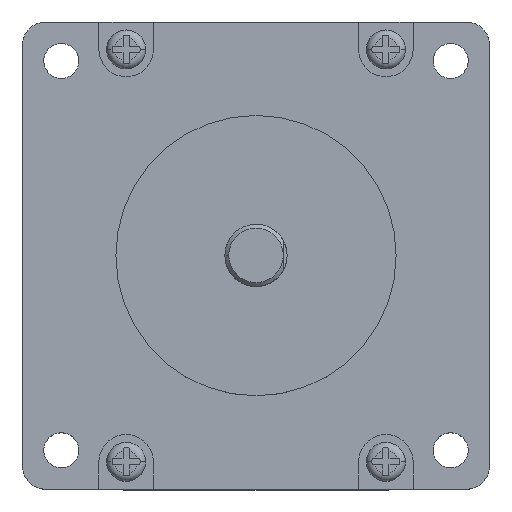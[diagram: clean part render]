
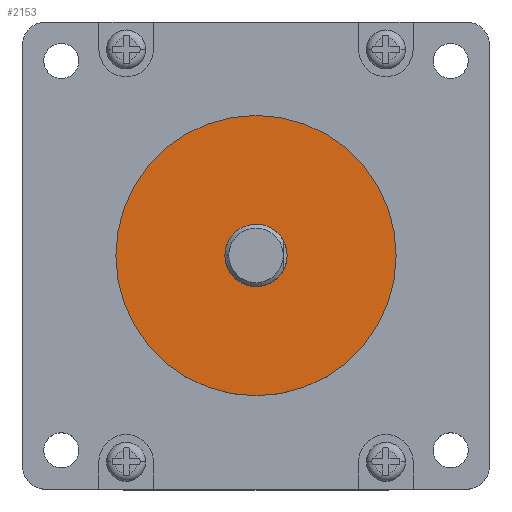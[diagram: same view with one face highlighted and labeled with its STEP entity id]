
A CAD part, top view. The second image highlights one B-rep face of the part: STEP entity #2153.
In plain terms, the highlighted planar face has unit normal (0, 0, 1).
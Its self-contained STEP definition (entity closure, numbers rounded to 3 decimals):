
#291 = CARTESIAN_POINT ( 'NONE',  ( 18., 0., 4.1 ) ) ;
#643 = CARTESIAN_POINT ( 'NONE',  ( 4., 0., 4.1 ) ) ;
#686 = CARTESIAN_POINT ( 'NONE',  ( -18., 0., 4.1 ) ) ;
#765 = CARTESIAN_POINT ( 'NONE',  ( -4., 0., 4.1 ) ) ;
#1043 = ORIENTED_EDGE ( 'NONE', *, *, #6015, .F. ) ;
#1044 = ORIENTED_EDGE ( 'NONE', *, *, #6553, .F. ) ;
#1045 = ORIENTED_EDGE ( 'NONE', *, *, #6002, .T. ) ;
#1046 = ORIENTED_EDGE ( 'NONE', *, *, #6554, .T. ) ;
#1372 = FACE_BOUND ( 'NONE', #4486, .T. ) ;
#1373 = FACE_OUTER_BOUND ( 'NONE', #4496, .T. ) ;
#1651 = VERTEX_POINT ( 'NONE', #765 ) ;
#1708 = VERTEX_POINT ( 'NONE', #686 ) ;
#1740 = VERTEX_POINT ( 'NONE', #643 ) ;
#1844 = VERTEX_POINT ( 'NONE', #291 ) ;
#2153 = ADVANCED_FACE ( 'NONE', ( #1373, #1372 ), #3555, .T. ) ;
#3542 = CARTESIAN_POINT ( 'NONE',  ( 0., 0., 4.1 ) ) ;
#3555 = PLANE ( 'NONE',  #6820 ) ;
#3556 = DIRECTION ( 'NONE',  ( 0., 0., 1. ) ) ;
#3557 = DIRECTION ( 'NONE',  ( 1., 0., 0. ) ) ;
#3886 = CARTESIAN_POINT ( 'NONE',  ( 0., 0., 4.1 ) ) ;
#3896 = DIRECTION ( 'NONE',  ( 0., 0., 1. ) ) ;
#3897 = DIRECTION ( 'NONE',  ( 1., 0., 0. ) ) ;
#3926 = CARTESIAN_POINT ( 'NONE',  ( 0., 0., 4.1 ) ) ;
#3934 = DIRECTION ( 'NONE',  ( 0., 0., 1. ) ) ;
#3935 = DIRECTION ( 'NONE',  ( 1., 0., 0. ) ) ;
#4408 = CARTESIAN_POINT ( 'NONE',  ( 0., 0., 4.1 ) ) ;
#4413 = CARTESIAN_POINT ( 'NONE',  ( 0., 0., 4.1 ) ) ;
#4426 = DIRECTION ( 'NONE',  ( 0., 0., 1. ) ) ;
#4427 = DIRECTION ( 'NONE',  ( 1., 0., 0. ) ) ;
#4428 = DIRECTION ( 'NONE',  ( 0., 0., 1. ) ) ;
#4429 = DIRECTION ( 'NONE',  ( 1., 0., 0. ) ) ;
#4486 = EDGE_LOOP ( 'NONE', ( #1044, #1043 ) ) ;
#4496 = EDGE_LOOP ( 'NONE', ( #1046, #1045 ) ) ;
#4903 = CIRCLE ( 'NONE', #7007, 18. ) ;
#4921 = CIRCLE ( 'NONE', #7010, 4. ) ;
#5167 = CIRCLE ( 'NONE', #7067, 4. ) ;
#5169 = CIRCLE ( 'NONE', #7077, 18. ) ;
#6002 = EDGE_CURVE ( 'NONE', #1844, #1708, #4903, .T. ) ;
#6015 = EDGE_CURVE ( 'NONE', #1740, #1651, #4921, .T. ) ;
#6553 = EDGE_CURVE ( 'NONE', #1651, #1740, #5167, .T. ) ;
#6554 = EDGE_CURVE ( 'NONE', #1708, #1844, #5169, .T. ) ;
#6820 = AXIS2_PLACEMENT_3D ( 'NONE', #3542, #3556, #3557 ) ;
#7007 = AXIS2_PLACEMENT_3D ( 'NONE', #3886, #3896, #3897 ) ;
#7010 = AXIS2_PLACEMENT_3D ( 'NONE', #3926, #3934, #3935 ) ;
#7067 = AXIS2_PLACEMENT_3D ( 'NONE', #4408, #4426, #4427 ) ;
#7077 = AXIS2_PLACEMENT_3D ( 'NONE', #4413, #4428, #4429 ) ;
